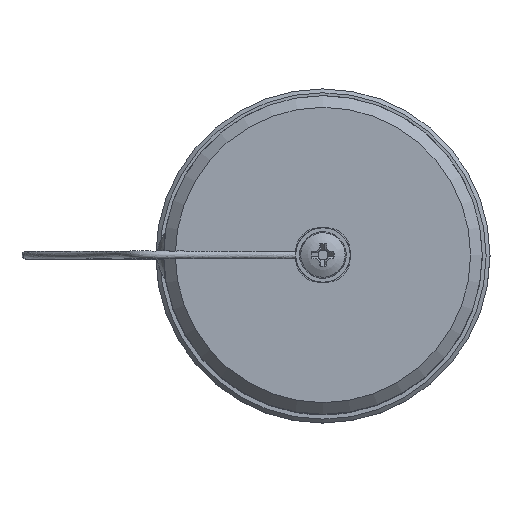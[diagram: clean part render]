
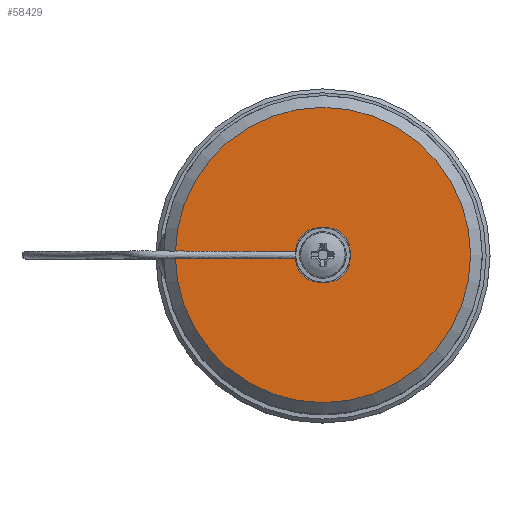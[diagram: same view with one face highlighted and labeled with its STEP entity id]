
A CAD part, top view. The second image highlights one B-rep face of the part: STEP entity #58429.
In plain terms, the highlighted planar face has unit normal (0, 0, 1).
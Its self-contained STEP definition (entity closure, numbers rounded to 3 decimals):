
#55934=CARTESIAN_POINT('',(-3.5,-0.5,91.4));
#55935=VERTEX_POINT('',#55934);
#56071=CARTESIAN_POINT('',(-3.5,0.5,91.4));
#56072=VERTEX_POINT('',#56071);
#56080=CARTESIAN_POINT('',(-3.5,-0.5,91.4));
#56081=CARTESIAN_POINT('',(-3.898,-0.5,91.4));
#56082=CARTESIAN_POINT('',(-4.291,-0.461,91.4));
#56083=CARTESIAN_POINT('',(-4.697,-0.353,91.4));
#56084=CARTESIAN_POINT('',(-4.84,-0.309,91.4));
#56085=CARTESIAN_POINT('',(-5.002,-0.212,91.4));
#56086=CARTESIAN_POINT('',(-5.049,-0.177,91.4));
#56087=CARTESIAN_POINT('',(-5.104,-0.112,91.4));
#56088=CARTESIAN_POINT('',(-5.121,-0.085,91.4));
#56089=CARTESIAN_POINT('',(-5.138,-0.033,91.4));
#56090=CARTESIAN_POINT('',(-5.142,-0.011,91.4));
#56091=CARTESIAN_POINT('',(-5.138,0.035,91.4));
#56092=CARTESIAN_POINT('',(-5.132,0.057,91.4));
#56093=CARTESIAN_POINT('',(-5.109,0.106,91.4));
#56094=CARTESIAN_POINT('',(-5.09,0.131,91.4));
#56095=CARTESIAN_POINT('',(-5.029,0.193,91.4));
#56096=CARTESIAN_POINT('',(-4.98,0.227,91.4));
#56097=CARTESIAN_POINT('',(-4.802,0.325,91.4));
#56098=CARTESIAN_POINT('',(-4.644,0.37,91.4));
#56099=CARTESIAN_POINT('',(-4.237,0.466,91.4));
#56100=CARTESIAN_POINT('',(-3.872,0.5,91.4));
#56101=CARTESIAN_POINT('',(-3.5,0.5,91.4));
#56102=B_SPLINE_CURVE_WITH_KNOTS('',3,(#56080,#56081,#56082,#56083,#56084,#56085,#56086,#56087,#56088,#56089,#56090,#56091,#56092,#56093,#56094,#56095,#56096,#56097,#56098,#56099,#56100,#56101),.UNSPECIFIED.,.F.,.U.,(4,2,2,2,2,2,2,2,2,2,4),(0.0,0.119,0.159,0.175,0.184,0.191,0.198,0.207,0.224,0.267,0.38),.UNSPECIFIED.);
#56103=EDGE_CURVE('',#55935,#56072,#56102,.T.);
#57835=CARTESIAN_POINT('',(-0.5,-3.5,91.4));
#57836=VERTEX_POINT('',#57835);
#57837=CARTESIAN_POINT('',(-0.5,-0.5,91.4));
#57838=DIRECTION('',(0.,0.,-1.0));
#57839=DIRECTION('',(-0.707,-0.707,0.));
#57840=AXIS2_PLACEMENT_3D('',#57837,#57838,#57839);
#57841=CIRCLE('',#57840,3.0);
#57842=EDGE_CURVE('',#57836,#55935,#57841,.T.);
#57858=CARTESIAN_POINT('',(0.5,-3.5,91.4));
#57859=VERTEX_POINT('',#57858);
#57860=CARTESIAN_POINT('',(0.5,-3.5,91.4));
#57861=DIRECTION('',(-1.0,0.0,0.0));
#57862=VECTOR('',#57861,1.0);
#57863=LINE('',#57860,#57862);
#57864=EDGE_CURVE('',#57859,#57836,#57863,.T.);
#57883=CARTESIAN_POINT('',(3.5,-0.5,91.4));
#57884=VERTEX_POINT('',#57883);
#57885=CARTESIAN_POINT('',(0.5,-0.5,91.4));
#57886=DIRECTION('',(0.,0.,-1.0));
#57887=DIRECTION('',(0.707,-0.707,0.));
#57888=AXIS2_PLACEMENT_3D('',#57885,#57886,#57887);
#57889=CIRCLE('',#57888,3.0);
#57890=EDGE_CURVE('',#57884,#57859,#57889,.T.);
#57908=CARTESIAN_POINT('',(-0.5,3.5,91.4));
#57909=VERTEX_POINT('',#57908);
#57910=CARTESIAN_POINT('',(-0.5,0.5,91.4));
#57911=DIRECTION('',(0.,0.,-1.0));
#57912=DIRECTION('',(-0.707,0.707,0.));
#57913=AXIS2_PLACEMENT_3D('',#57910,#57911,#57912);
#57914=CIRCLE('',#57913,3.0);
#57915=EDGE_CURVE('',#56072,#57909,#57914,.T.);
#57938=CARTESIAN_POINT('',(0.5,3.5,91.4));
#57939=VERTEX_POINT('',#57938);
#57940=CARTESIAN_POINT('',(-0.5,3.5,91.4));
#57941=DIRECTION('',(1.0,0.0,0.0));
#57942=VECTOR('',#57941,1.0);
#57943=LINE('',#57940,#57942);
#57944=EDGE_CURVE('',#57909,#57939,#57943,.T.);
#57964=CARTESIAN_POINT('',(3.5,0.5,91.4));
#57965=VERTEX_POINT('',#57964);
#57972=CARTESIAN_POINT('',(0.5,0.5,91.4));
#57973=DIRECTION('',(0.,0.,-1.0));
#57974=DIRECTION('',(0.707,0.707,0.));
#57975=AXIS2_PLACEMENT_3D('',#57972,#57973,#57974);
#57976=CIRCLE('',#57975,3.0);
#57977=EDGE_CURVE('',#57939,#57965,#57976,.T.);
#58038=CARTESIAN_POINT('',(3.5,0.5,91.4));
#58039=DIRECTION('',(0.0,-1.0,0.0));
#58040=VECTOR('',#58039,1.0);
#58041=LINE('',#58038,#58040);
#58042=EDGE_CURVE('',#57965,#57884,#58041,.T.);
#58387=CARTESIAN_POINT('',(19.,0.,91.4));
#58388=VERTEX_POINT('',#58387);
#58389=CARTESIAN_POINT('',(0.,0.,91.4));
#58390=DIRECTION('',(0.0,0.0,-1.0));
#58391=DIRECTION('',(-1.0,0.0,0.0));
#58392=AXIS2_PLACEMENT_3D('',#58389,#58390,#58391);
#58393=CIRCLE('',#58392,19.);
#58394=EDGE_CURVE('',#58388,#58388,#58393,.T.);
#58411=CARTESIAN_POINT('',(0.,0.,91.4));
#58412=DIRECTION('',(0.0,0.0,-1.0));
#58413=DIRECTION('',(-1.0,0.0,0.0));
#58414=AXIS2_PLACEMENT_3D('',#58411,#58412,#58413);
#58415=PLANE('',#58414);
#58416=ORIENTED_EDGE('',*,*,#58394,.F.);
#58417=EDGE_LOOP('',(#58416));
#58418=FACE_OUTER_BOUND('',#58417,.T.);
#58419=ORIENTED_EDGE('',*,*,#57915,.T.);
#58420=ORIENTED_EDGE('',*,*,#57944,.T.);
#58421=ORIENTED_EDGE('',*,*,#57977,.T.);
#58422=ORIENTED_EDGE('',*,*,#58042,.T.);
#58423=ORIENTED_EDGE('',*,*,#57890,.T.);
#58424=ORIENTED_EDGE('',*,*,#57864,.T.);
#58425=ORIENTED_EDGE('',*,*,#57842,.T.);
#58426=ORIENTED_EDGE('',*,*,#56103,.T.);
#58427=EDGE_LOOP('',(#58419,#58420,#58421,#58422,#58423,#58424,#58425,#58426));
#58428=FACE_BOUND('',#58427,.T.);
#58429=ADVANCED_FACE('',(#58418,#58428),#58415,.F.);
